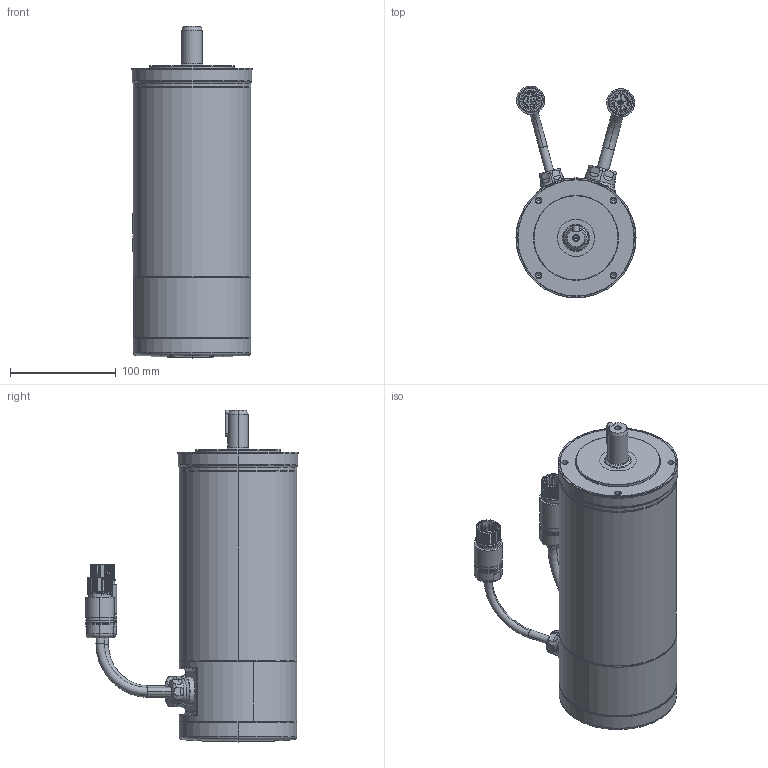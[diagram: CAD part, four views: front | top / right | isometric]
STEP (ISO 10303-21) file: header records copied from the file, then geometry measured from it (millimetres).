
FILE_DESCRIPTION (( 'STEP AP203' ), '1' );
FILE_NAME ('999-001-2163-M542-GK07-14W9-N03S-N.STEP', '2020-08-26T15:53:37', ( '' ), ( '' ), 'SwSTEP 2.0', 'SolidWorks 2019', '' );
FILE_SCHEMA (( 'CONFIG_CONTROL_DESIGN' ));
Length unit declared in the file: inch
Products named in the file (1): 999-001-2163-M542-GK07-14W9-N03S-N
Bounding box: 113.39 x 200.33 x 313.64 mm (x, y, z)
Volume: 993719.5 mm3; surface area: 360150.7 mm2
Topology: 46 solids, 46 shells, 3884 faces, 9930 edges, 6461 vertices
Faces by surface type: plane 1265, cylinder 1249, bspline 780, torus 384, cone 108, sphere 98
Entity records: 284606 total; most frequent: CARTESIAN_POINT 196232, ORIENTED_EDGE 19744, DIRECTION 16787, EDGE_CURVE 9872, AXIS2_PLACEMENT_3D 6516, VERTEX_POINT 6461, EDGE_LOOP 4359, ADVANCED_FACE 3884
